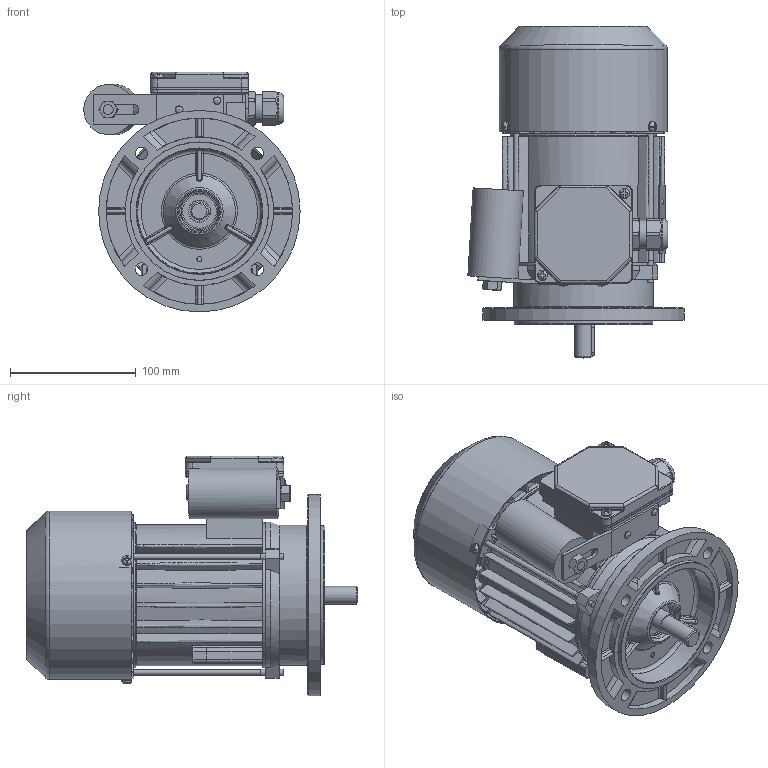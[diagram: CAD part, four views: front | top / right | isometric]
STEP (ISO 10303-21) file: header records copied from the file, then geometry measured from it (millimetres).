
FILE_DESCRIPTION(/* description */ ('Unknown'),/* implementation_level */ '2;1');
FILE_NAME(/* name */ '3SSIEK71-4A',/* time_stamp */ '2024-06-17T12:13:54+02:00',/* author */ ('Unknown'),/* organization */ ('Unknown'),/* preprocessor_version */ 'ST-DEVELOPER v16.7',/* originating_system */ 'Solid Edge',/* authorisation */ 'Unknown');
FILE_SCHEMA (('TECHNICAL_DATA_PACKAGING','AUTOMOTIVE_DESIGN {1 0 10303 214 3 1 1}'));
Products named in the file (1): Czêœæ23
Bounding box: 171.73 x 263.49 x 190.5 mm (x, y, z)
Volume: 795436.7 mm3; surface area: 434931.3 mm2
Topology: 2 solids, 2 shells, 2287 faces, 6337 edges, 4067 vertices
Faces by surface type: plane 940, cylinder 671, bspline 338, torus 175, cone 137, sphere 26
Full cylindrical faces by diameter (mm): 3 x1, 3.7 x4, 3.8 x4, 4 x5, 4.3 x2, 4.5 x2, 4.6 x3, 4.8 x2, 5 x8, 5.5 x3, 6 x2, 6.5 x1, 7 x1, 8 x10, 10 x4, 13.999 x1, 15.898 x1, 16.098 x1, 16.498 x1, 16.998 x2, 17.4 x2, 21.998 x2, 22.3 x1, 22.498 x1, 23.098 x1, 23.998 x1, 24.496 x4, 25 x1, 27 x1, 28 x1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
Entity records: 97221 total; most frequent: CARTESIAN_POINT 26784, ORIENTED_EDGE 11952, DIRECTION 10421, EDGE_CURVE 5976, AXIS2_PLACEMENT_3D 3944, VERTEX_POINT 3940, FACE_BOUND 2702, EDGE_LOOP 2698
